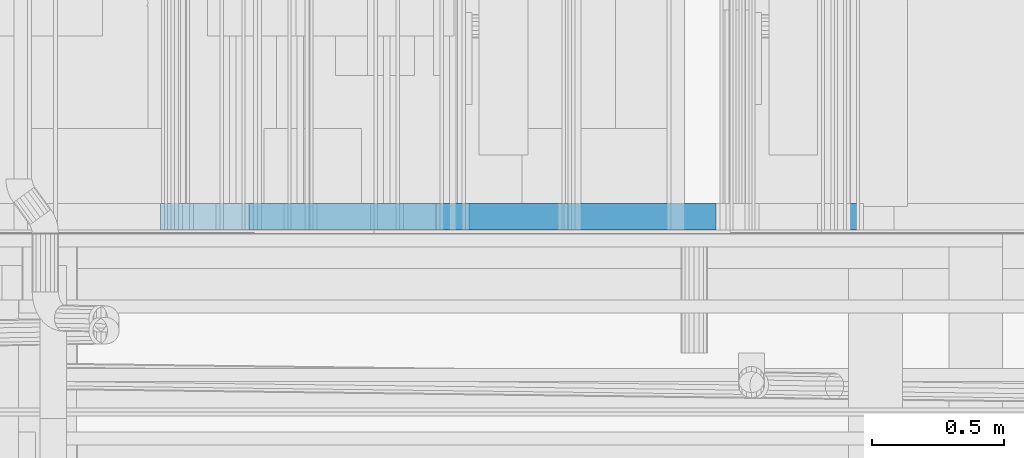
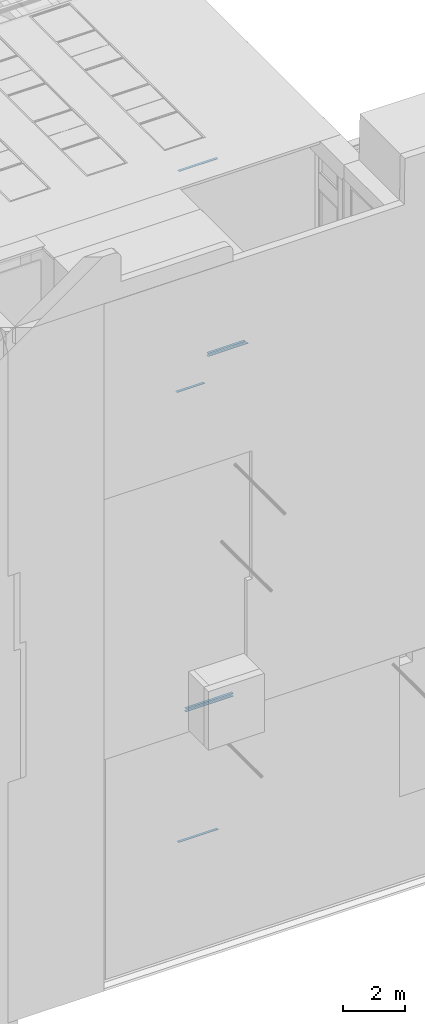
# One storey, part 49 of 583: 7 building element parts, 5 elements without a shape of their own.
"""IFC2X3 building model written with IfcOpenShell, lengths in metres."""

from ifc_helpers import new_model, entity, si_unit, converted_unit, derived_unit, money_unit, direction, frame, frame_2d, origin_with_axes, place, context, subcontext, project, spatial, polyline, rectangle, outline, extrude, material, type_object, element, aggregate, save


model = new_model("IFC2X3")

# Units and contexts
model_context = context("Model", 3, precision=1e-05, world=origin_with_axes(), true_north=direction((0.0, 1.0)))
body_context = subcontext(model_context, "Body", "Model", "MODEL_VIEW", scale=1.0)
ifc_project = project(units=[si_unit("LENGTHUNIT", "METRE"), si_unit("AREAUNIT", "SQUARE_METRE"), si_unit("VOLUMEUNIT", "CUBIC_METRE"), si_unit("ABSORBEDDOSEUNIT", "GRAY"), si_unit("AMOUNTOFSUBSTANCEUNIT", "MOLE"), si_unit("DOSEEQUIVALENTUNIT", "SIEVERT"), si_unit("ELECTRICCAPACITANCEUNIT", "FARAD"), si_unit("ELECTRICCHARGEUNIT", "COULOMB"), si_unit("ELECTRICCONDUCTANCEUNIT", "SIEMENS"), si_unit("ELECTRICCURRENTUNIT", "AMPERE"), si_unit("ELECTRICRESISTANCEUNIT", "OHM"), si_unit("ELECTRICVOLTAGEUNIT", "VOLT"), si_unit("ENERGYUNIT", "JOULE"), si_unit("FORCEUNIT", "NEWTON"), si_unit("FREQUENCYUNIT", "HERTZ"), si_unit("ILLUMINANCEUNIT", "LUX"), si_unit("INDUCTANCEUNIT", "HENRY"), si_unit("LUMINOUSFLUXUNIT", "LUMEN"), si_unit("LUMINOUSINTENSITYUNIT", "CANDELA"), si_unit("MAGNETICFLUXDENSITYUNIT", "TESLA"), si_unit("MAGNETICFLUXUNIT", "WEBER"), si_unit("MASSUNIT", "GRAM"), converted_unit("PLANEANGLEUNIT", "degree", entity("IfcReal", 0.0174532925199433), si_unit("PLANEANGLEUNIT", "RADIAN"), dimensions=[0, 0, 0, 0, 0, 0, 0]), si_unit("POWERUNIT", "WATT"), si_unit("PRESSUREUNIT", "PASCAL"), si_unit("RADIOACTIVITYUNIT", "BECQUEREL"), si_unit("SOLIDANGLEUNIT", "STERADIAN"), si_unit("THERMODYNAMICTEMPERATUREUNIT", "KELVIN"), si_unit("TIMEUNIT", "SECOND"), derived_unit("ACCELERATIONUNIT", [(si_unit("LENGTHUNIT", "METRE"), 1), (si_unit("TIMEUNIT", "SECOND"), -2)]), derived_unit("ANGULARVELOCITYUNIT", [(converted_unit("PLANEANGLEUNIT", "degree", entity("IfcReal", 0.0174532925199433), si_unit("PLANEANGLEUNIT", "RADIAN"), dimensions=[0, 0, 0, 0, 0, 0, 0]), 1), (si_unit("TIMEUNIT", "SECOND"), -1)]), derived_unit("CURVATUREUNIT", [(converted_unit("PLANEANGLEUNIT", "degree", entity("IfcReal", 0.0174532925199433), si_unit("PLANEANGLEUNIT", "RADIAN"), dimensions=[0, 0, 0, 0, 0, 0, 0]), 1), (si_unit("LENGTHUNIT", "METRE"), -1)]), derived_unit("DYNAMICVISCOSITYUNIT", [(si_unit("PRESSUREUNIT", "PASCAL"), 1), (si_unit("TIMEUNIT", "SECOND"), 1)]), derived_unit("HEATFLUXDENSITYUNIT", [(si_unit("POWERUNIT", "WATT"), 1), (si_unit("LENGTHUNIT", "METRE"), -2)]), derived_unit("HEATINGVALUEUNIT", [(si_unit("ENERGYUNIT", "JOULE"), 1), (si_unit("MASSUNIT", "GRAM"), -1)]), derived_unit("INTEGERCOUNTRATEUNIT", [(si_unit("TIMEUNIT", "SECOND"), -1)]), derived_unit("IONCONCENTRATIONUNIT", [(si_unit("MASSUNIT", "GRAM"), 1), (si_unit("VOLUMEUNIT", "CUBIC_METRE"), -1)]), derived_unit("ISOTHERMALMOISTURECAPACITYUNIT", [(si_unit("VOLUMEUNIT", "CUBIC_METRE"), 1), (si_unit("MASSUNIT", "GRAM"), -1)]), derived_unit("KINEMATICVISCOSITYUNIT", [(si_unit("AREAUNIT", "SQUARE_METRE"), 1), (si_unit("TIMEUNIT", "SECOND"), -1)]), derived_unit("LINEARFORCEUNIT", [(si_unit("FORCEUNIT", "NEWTON"), 1), (si_unit("LENGTHUNIT", "METRE"), -1)]), derived_unit("LINEARMOMENTUNIT", [(si_unit("FORCEUNIT", "NEWTON"), 1), (si_unit("LENGTHUNIT", "METRE"), -1)]), derived_unit("LINEARSTIFFNESSUNIT", [(si_unit("FORCEUNIT", "NEWTON"), 1), (si_unit("LENGTHUNIT", "METRE"), -1)]), derived_unit("LINEARVELOCITYUNIT", [(si_unit("LENGTHUNIT", "METRE"), 1), (si_unit("TIMEUNIT", "SECOND"), -1)]), derived_unit("LUMINOUSINTENSITYDISTRIBUTIONUNIT", [(si_unit("LUMINOUSINTENSITYUNIT", "CANDELA"), 1), (si_unit("LUMINOUSFLUXUNIT", "LUMEN"), -1)]), derived_unit("MASSDENSITYUNIT", [(si_unit("MASSUNIT", "GRAM"), 1), (si_unit("VOLUMEUNIT", "CUBIC_METRE"), -1)]), derived_unit("MASSFLOWRATEUNIT", [(si_unit("MASSUNIT", "GRAM"), 1), (si_unit("TIMEUNIT", "SECOND"), -1)]), derived_unit("MASSPERLENGTHUNIT", [(si_unit("MASSUNIT", "GRAM"), 1), (si_unit("LENGTHUNIT", "METRE"), -1)]), derived_unit("MODULUSOFELASTICITYUNIT", [(si_unit("FORCEUNIT", "NEWTON"), 1), (si_unit("AREAUNIT", "SQUARE_METRE"), -1)]), derived_unit("MODULUSOFLINEARSUBGRADEREACTIONUNIT", [(si_unit("FORCEUNIT", "NEWTON"), 1), (si_unit("LENGTHUNIT", "METRE"), -2)]), derived_unit("MODULUSOFROTATIONALSUBGRADEREACTIONUNIT", [(si_unit("FORCEUNIT", "NEWTON"), 1), (si_unit("LENGTHUNIT", "METRE"), 1)]), derived_unit("MODULUSOFSUBGRADEREACTIONUNIT", [(si_unit("FORCEUNIT", "NEWTON"), 1), (si_unit("VOLUMEUNIT", "CUBIC_METRE"), -1)]), derived_unit("MOISTUREDIFFUSIVITYUNIT", [(si_unit("VOLUMEUNIT", "CUBIC_METRE"), 1), (si_unit("TIMEUNIT", "SECOND"), -1)]), derived_unit("MOLECULARWEIGHTUNIT", [(si_unit("MASSUNIT", "GRAM"), 1), (si_unit("AMOUNTOFSUBSTANCEUNIT", "MOLE"), -1)]), derived_unit("PLANARFORCEUNIT", [(si_unit("FORCEUNIT", "NEWTON"), 1), (si_unit("LENGTHUNIT", "METRE"), -2)]), derived_unit("ROTATIONALFREQUENCYUNIT", [(si_unit("TIMEUNIT", "SECOND"), -1)]), derived_unit("ROTATIONALMASSUNIT", [(si_unit("MASSUNIT", "GRAM"), 1), (si_unit("LENGTHUNIT", "METRE"), 2)]), derived_unit("ROTATIONALSTIFFNESSUNIT", [(si_unit("FORCEUNIT", "NEWTON"), 1), (si_unit("LENGTHUNIT", "METRE"), 1), (converted_unit("PLANEANGLEUNIT", "degree", entity("IfcReal", 0.0174532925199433), si_unit("PLANEANGLEUNIT", "RADIAN"), dimensions=[0, 0, 0, 0, 0, 0, 0]), -1)]), derived_unit("SECTIONAREAINTEGRALUNIT", [(si_unit("LENGTHUNIT", "METRE"), 5)]), derived_unit("SECTIONMODULUSUNIT", [(si_unit("LENGTHUNIT", "METRE"), 3)]), derived_unit("SHEARMODULUSUNIT", [(si_unit("FORCEUNIT", "NEWTON"), 1), (si_unit("AREAUNIT", "SQUARE_METRE"), -1)]), derived_unit("SOUNDPOWERUNIT", [(si_unit("ENERGYUNIT", "JOULE"), 1), (si_unit("TIMEUNIT", "SECOND"), -1)]), derived_unit("SPECIFICHEATCAPACITYUNIT", [(si_unit("FORCEUNIT", "NEWTON"), 1), (si_unit("MASSUNIT", "GRAM"), -1), (si_unit("THERMODYNAMICTEMPERATUREUNIT", "KELVIN"), -1)]), derived_unit("TEMPERATUREGRADIENTUNIT", [(si_unit("THERMODYNAMICTEMPERATUREUNIT", "KELVIN"), 1), (si_unit("LENGTHUNIT", "METRE"), -1)]), derived_unit("THERMALADMITTANCEUNIT", [(si_unit("POWERUNIT", "WATT"), 1), (si_unit("AREAUNIT", "SQUARE_METRE"), -1), (si_unit("THERMODYNAMICTEMPERATUREUNIT", "KELVIN"), -1)]), derived_unit("THERMALCONDUCTANCEUNIT", [(si_unit("POWERUNIT", "WATT"), 1), (si_unit("LENGTHUNIT", "METRE"), -1), (si_unit("THERMODYNAMICTEMPERATUREUNIT", "KELVIN"), -1)]), derived_unit("THERMALEXPANSIONCOEFFICIENTUNIT", [(si_unit("THERMODYNAMICTEMPERATUREUNIT", "KELVIN"), -1)]), derived_unit("THERMALRESISTANCEUNIT", [(si_unit("AREAUNIT", "SQUARE_METRE"), 1), (si_unit("POWERUNIT", "WATT"), -1)]), derived_unit("THERMALTRANSMITTANCEUNIT", [(si_unit("POWERUNIT", "WATT"), 1), (si_unit("AREAUNIT", "SQUARE_METRE"), -1), (si_unit("THERMODYNAMICTEMPERATUREUNIT", "KELVIN"), -1)]), derived_unit("TORQUEUNIT", [(si_unit("FORCEUNIT", "NEWTON"), 1), (si_unit("LENGTHUNIT", "METRE"), 1)]), derived_unit("VAPORPERMEABILITYUNIT", [(si_unit("MASSUNIT", "GRAM"), 1), (si_unit("TIMEUNIT", "SECOND"), -1)]), derived_unit("VOLUMETRICFLOWRATEUNIT", [(si_unit("VOLUMEUNIT", "CUBIC_METRE"), 1), (si_unit("TIMEUNIT", "SECOND"), -1)]), derived_unit("WARPINGCONSTANTUNIT", [(si_unit("LENGTHUNIT", "METRE"), 6)]), derived_unit("WARPINGMOMENTUNIT", [(si_unit("FORCEUNIT", "NEWTON"), 1), (si_unit("LENGTHUNIT", "METRE"), 2)]), money_unit("GBP")], contexts=[model_context])

# Site, building, storey
site_placement = place(None, origin_with_axes())
site = spatial("IfcSite", under=ifc_project, at=site_placement, Name="Site", CompositionType="ELEMENT")
building_placement = place(site_placement, origin_with_axes())
building = spatial("IfcBuilding", under=site, at=building_placement, Name="Building01", CompositionType="ELEMENT")
storey_placement = place(building_placement, frame((0.0, 0.0, 20.78), z_axis=(0.0, 0.0, 1.0), x_axis=(1.0, 0.0, 0.0)))
storey = spatial("IfcBuildingStorey", under=building, at=storey_placement, Name="RL", CompositionType="ELEMENT", Elevation=20.78)

# Wall, building element parts
wall_type_1 = type_object("IfcWallType", Name="SHE_A-Walls_Type05a_Partition_95mm_tall", PredefinedType="NOTDEFINED")
wall_1_placement = place(storey_placement, frame((10.63, 5.15, -1.694716), z_axis=(0.0, 1.0, 0.0), x_axis=(1.0, 0.0, 0.0)))
wall_1 = element("IfcWall", 1, at=wall_1_placement, inside=storey, type_object=wall_type_1, Name="5A", ObjectType="SHE_A-Walls_Type05a_Partition_95mm_tall")
ifc_material = material(Name="A_BSUK_Walls_Timber")
placement_1 = place(wall_1_placement, origin_with_axes())
building_element_part_1 = element("IfcBuildingElementPart", 2, at=placement_1, material=ifc_material, Name="2", context=body_context, shape_type="SweptSolid", body=[
    extrude(outline(polyline([(1.544378, 0.075), (0.05, 0.075), (0.035, 0.06), (1.529378, 0.06), (1.544378, 0.075)])), frame((0.0, 0.0, 0.015), z_axis=(0.0, 0.0, 1.0), x_axis=(1.0, 0.0, 0.0)), (0.0, 0.0, 1.0), 0.1),
])
building_element_part_2 = element("IfcBuildingElementPart", 3, at=placement_1, material=ifc_material, Name="3", context=body_context, shape_type="SweptSolid", body=[
    extrude(outline(polyline([(1.434378, -0.035), (0.05, -0.035), (0.05, -0.05), (1.419378, -0.05), (1.434378, -0.035)])), frame((0.0, 0.0, 0.015), z_axis=(0.0, 0.0, 1.0), x_axis=(1.0, 0.0, 0.0)), (0.0, 0.0, 1.0), 0.1),
])
aggregate(wall_1, [building_element_part_1, building_element_part_2])

# Wall, building element part
wall_2_placement = place(storey_placement, frame((9.585, 5.15, -2.84), z_axis=(0.0, 1.0, 0.0), x_axis=(1.0, 0.0, 0.0)))
wall_2 = element("IfcWall", 4, at=wall_2_placement, inside=storey, type_object=wall_type_1, Name="5A", ObjectType="SHE_A-Walls_Type05a_Partition_95mm_tall")
building_element_part_3_placement = place(wall_2_placement, origin_with_axes())
building_element_part_3 = element("IfcBuildingElementPart", 5, at=building_element_part_3_placement, material=ifc_material, Name="3", context=body_context, shape_type="SweptSolid", body=[
    extrude(outline(polyline([(0.97, -0.06), (-0.06, -0.06), (-0.075, -0.075), (0.97, -0.075), (0.97, -0.06)])), frame((0.0, 0.0, 0.015), z_axis=(0.0, 0.0, 1.0), x_axis=(1.0, 0.0, 0.0)), (0.0, 0.0, 1.0), 0.1),
])
aggregate(wall_2, [building_element_part_3])

# Wall, building element parts
wall_3_placement = place(storey_placement, frame((9.79567, 5.15, -15.350331), z_axis=(0.0, 1.0, 0.0), x_axis=(1.0, 0.0, 0.0)))
wall_3 = element("IfcWall", 6, at=wall_3_placement, inside=storey, type_object=wall_type_1, Name="5A", ObjectType="SHE_A-Walls_Type05a_Partition_95mm_tall")
placement_2 = place(wall_3_placement, origin_with_axes())
building_element_part_4 = element("IfcBuildingElementPart", 7, at=placement_2, material=ifc_material, Name="2", context=body_context, shape_type="SweptSolid", body=[
    extrude(rectangle(XDim=1.77, YDim=0.015, at=frame_2d((0.935, 0.0675), x_axis=(-1.0, 0.0))), frame((0.0, 0.0, 0.015), z_axis=(0.0, 0.0, 1.0), x_axis=(1.0, 0.0, 0.0)), (0.0, 0.0, 1.0), 0.1),
])
building_element_part_5 = element("IfcBuildingElementPart", 8, at=placement_2, material=ifc_material, Name="3", context=body_context, shape_type="SweptSolid", body=[
    extrude(rectangle(XDim=1.77, YDim=0.015, at=frame_2d((0.935, -0.0425), x_axis=(-1.0, 0.0))), frame((0.0, 0.0, 0.015), z_axis=(0.0, 0.0, 1.0), x_axis=(1.0, 0.0, 0.0)), (0.0, 0.0, 1.0), 0.1),
])
aggregate(wall_3, [building_element_part_4, building_element_part_5])

# Wall, building element part
wall_type_2 = type_object("IfcWallType", Name="SHE_A-Walls_Type06d_ExternalWallInsulation_48mm", PredefinedType="NOTDEFINED")
wall_4_placement = place(storey_placement, frame((11.03218, 5.15, 5.894), z_axis=(0.0, 1.0, 0.0), x_axis=(-1.0, 0.0, 0.0)))
wall_4 = element("IfcWall", 9, at=wall_4_placement, inside=storey, type_object=wall_type_2, Name="6D", ObjectType="SHE_A-Walls_Type06d_ExternalWallInsulation_48mm")
building_element_part_6_placement = place(wall_4_placement, origin_with_axes())
building_element_part_6 = element("IfcBuildingElementPart", 10, at=building_element_part_6_placement, material=ifc_material, Name="2", context=body_context, shape_type="SweptSolid", body=[
    extrude(rectangle(XDim=1.44, YDim=0.015, at=frame_2d((0.72, -0.0195), x_axis=(-1.0, 0.0))), frame((0.0, 0.0, 0.015), z_axis=(0.0, 0.0, 1.0), x_axis=(1.0, 0.0, 0.0)), (0.0, 0.0, 1.0), 0.1),
])
aggregate(wall_4, [building_element_part_6])

wall_5_placement = place(storey_placement, frame((11.055, 5.15, -20.474), z_axis=(0.0, 1.0, 0.0), x_axis=(-1.0, 0.0, 0.0)))
wall_5 = element("IfcWall", 11, at=wall_5_placement, inside=storey, type_object=wall_type_2, Name="6D", ObjectType="SHE_A-Walls_Type06d_ExternalWallInsulation_48mm")
building_element_part_7_placement = place(wall_5_placement, origin_with_axes())
building_element_part_7 = element("IfcBuildingElementPart", 12, at=building_element_part_7_placement, material=ifc_material, Name="2", context=body_context, shape_type="SweptSolid", body=[
    extrude(rectangle(XDim=1.47782, YDim=0.015, at=frame_2d((0.73891, 0.0195), x_axis=(-1.0, 0.0))), frame((0.0, 0.0, 0.015), z_axis=(0.0, 0.0, 1.0), x_axis=(1.0, 0.0, 0.0)), (0.0, 0.0, 1.0), 0.1),
])
aggregate(wall_5, [building_element_part_7])

save(model, "model.ifc")
